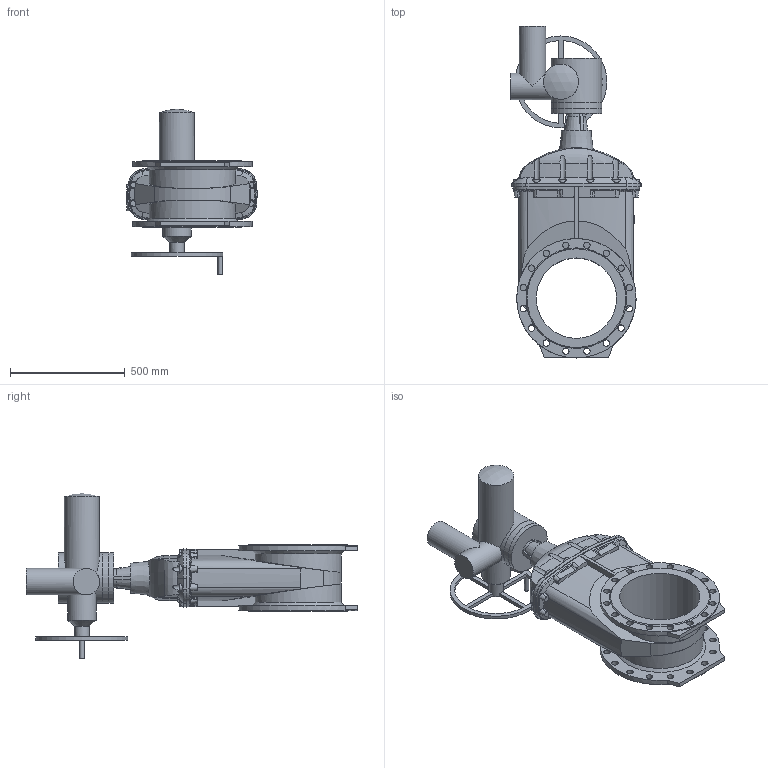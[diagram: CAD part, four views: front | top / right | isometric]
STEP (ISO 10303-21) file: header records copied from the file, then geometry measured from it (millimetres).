
FILE_DESCRIPTION (( 'STEP AP203' ), '1' );
FILE_NAME ('O_15_40_DN350_X1X_SA14.6_AA0.step', '2017-03-20T12:12:22', ( 'Windows User' ), ( 'AVK' ), 'SwSTEP 2.0', 'SolidWorks 2012', '' );
FILE_SCHEMA (( 'CONFIG_CONTROL_DESIGN' ));
Length unit declared in the file: inch
Products named in the file (1): O_15_40_DN350_X1X_SA14.6_AA0
Bounding box: 567 x 1445.5 x 721 mm (x, y, z)
Volume: 76984126.9 mm3; surface area: 2647977.1 mm2
Topology: 1 solids, 1 shells, 350 faces, 1016 edges, 676 vertices
Faces by surface type: plane 114, cone 89, cylinder 80, torus 33, bspline 33, sphere 1
Full cylindrical faces by diameter (mm): 20 x1, 28 x32, 62.64 x1, 115 x2, 124.727 x1, 153 x1, 220 x3, 350 x1, 400 x1, 520 x2
Entity records: 17285 total; most frequent: CARTESIAN_POINT 8800, ORIENTED_EDGE 1848, DIRECTION 1542, EDGE_CURVE 924, AXIS2_PLACEMENT_3D 652, VERTEX_POINT 634, EDGE_LOOP 482, FACE_OUTER_BOUND 395
